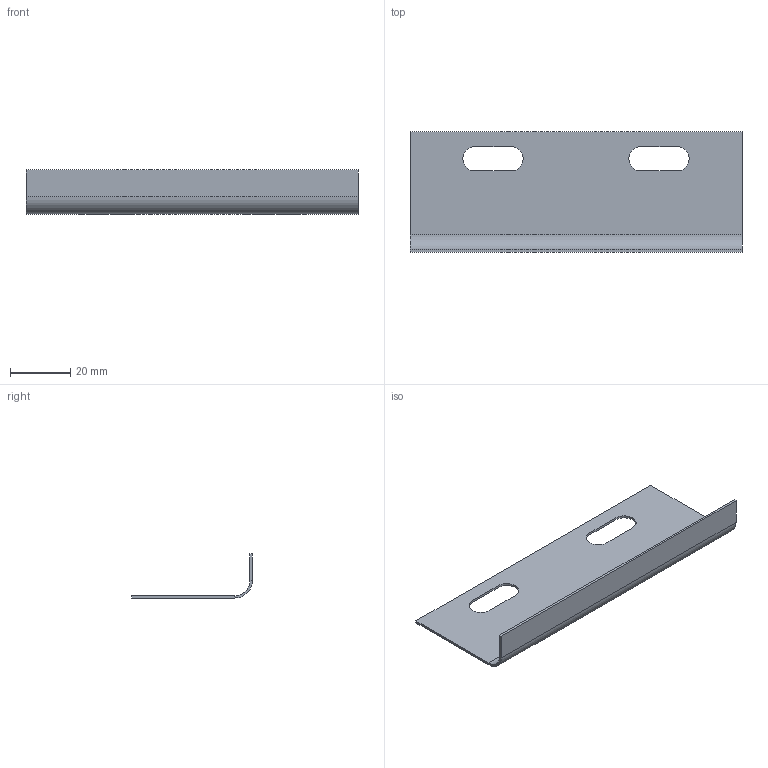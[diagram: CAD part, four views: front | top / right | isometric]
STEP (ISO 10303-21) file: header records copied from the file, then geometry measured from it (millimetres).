
FILE_DESCRIPTION (( 'STEP AP203' ), '1' );
FILE_NAME ('JUER 60.STEP', '2020-02-12T07:53:22', ( '' ), ( '' ), 'SwSTEP 2.0', 'SolidWorks 2019', '' );
FILE_SCHEMA (( 'CONFIG_CONTROL_DESIGN' ));
Length unit declared in the file: millimetre
Products named in the file (1): JUER 60
Bounding box: 110 x 40 x 14.62 mm (x, y, z)
Volume: 4298.2 mm3; surface area: 11082.5 mm2
Topology: 1 solids, 1 shells, 24 faces, 58 edges, 36 vertices
Faces by surface type: plane 16, cylinder 8
Entity records: 779 total; most frequent: DIRECTION 124, CARTESIAN_POINT 119, ORIENTED_EDGE 116, EDGE_CURVE 58, VECTOR 42, LINE 42, AXIS2_PLACEMENT_3D 41, VERTEX_POINT 36
